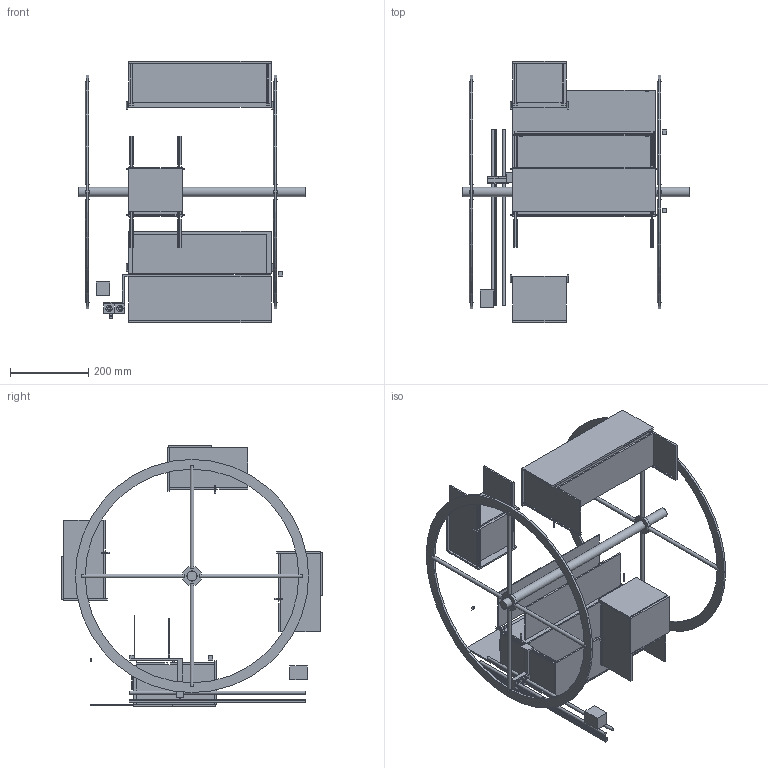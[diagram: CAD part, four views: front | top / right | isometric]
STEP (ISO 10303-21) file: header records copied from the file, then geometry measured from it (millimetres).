
FILE_DESCRIPTION(('FreeCAD Model'),'2;1');
FILE_NAME('Open CASCADE Shape Model','2026-10-19T11:25:59',('FreeCAD'),( 'FreeCAD'),'Open CASCADE STEP processor 7.8','FreeCAD','Unknown');
FILE_SCHEMA(('AUTOMOTIVE_DESIGN { 1 0 10303 214 1 1 1 1 }'));
Length unit declared in the file: millimetre
Products named in the file (1): Open CASCADE STEP translator 7.8 15
Bounding box: 580.5 x 668 x 668 mm (x, y, z)
Volume: 13028023.9 mm3; surface area: 2258062.5 mm2
Topology: 53 solids, 53 shells, 1529 faces, 4302 edges, 2868 vertices
Faces by surface type: plane 1484, cylinder 45
Full cylindrical faces by diameter (mm): 4 x8, 8 x2, 8.5 x2, 10 x8, 16 x4, 24 x1, 26 x2, 596 x2
Entity records: 48948 total; most frequent: CARTESIAN_POINT 9388, ORIENTED_EDGE 8604, DIRECTION 7428, EDGE_CURVE 4302, LINE 4148, VECTOR 4148, VERTEX_POINT 2868, AXIS2_PLACEMENT_3D 1640
